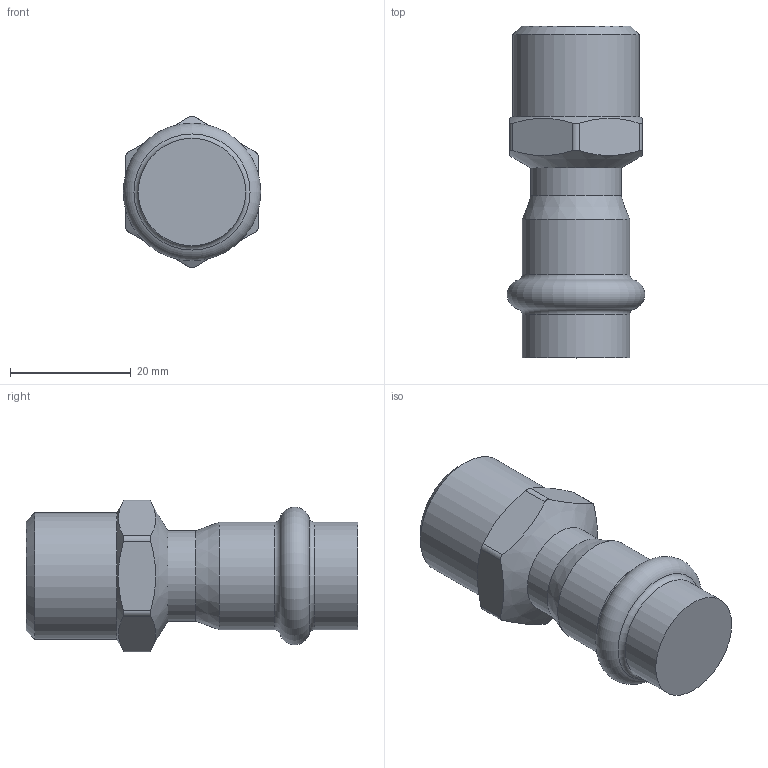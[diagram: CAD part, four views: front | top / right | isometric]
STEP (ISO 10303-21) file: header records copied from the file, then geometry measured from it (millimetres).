
FILE_DESCRIPTION(('STEP AP203'), '1');
FILE_NAME('VTi.901.I.001504', '', ('UNSPECIFIED'), ('UNSPECIFIED'), 'C3D Converter', 'C3D Toolkit', '');
FILE_SCHEMA(('CONFIG_CONTROL_DESIGN'));
Length unit declared in the file: millimetre
Bounding box: 22.8 x 55 x 25.09 mm (x, y, z)
Volume: 16325 mm3; surface area: 4228.7 mm2
Topology: 1 solids, 1 shells, 25 faces, 61 edges, 38 vertices
Faces by surface type: cylinder 10, plane 8, cone 4, torus 3
Full cylindrical faces by diameter (mm): 15 x1, 17.8 x2, 20.955 x1
Entity records: 1458 total; most frequent: CARTESIAN_POINT 916, ORIENTED_EDGE 100, DIRECTION 88, EDGE_CURVE 50, AXIS2_PLACEMENT_3D 38, VERTEX_POINT 38, EDGE_LOOP 36, B_SPLINE_CURVE_WITH_KNOTS 26
